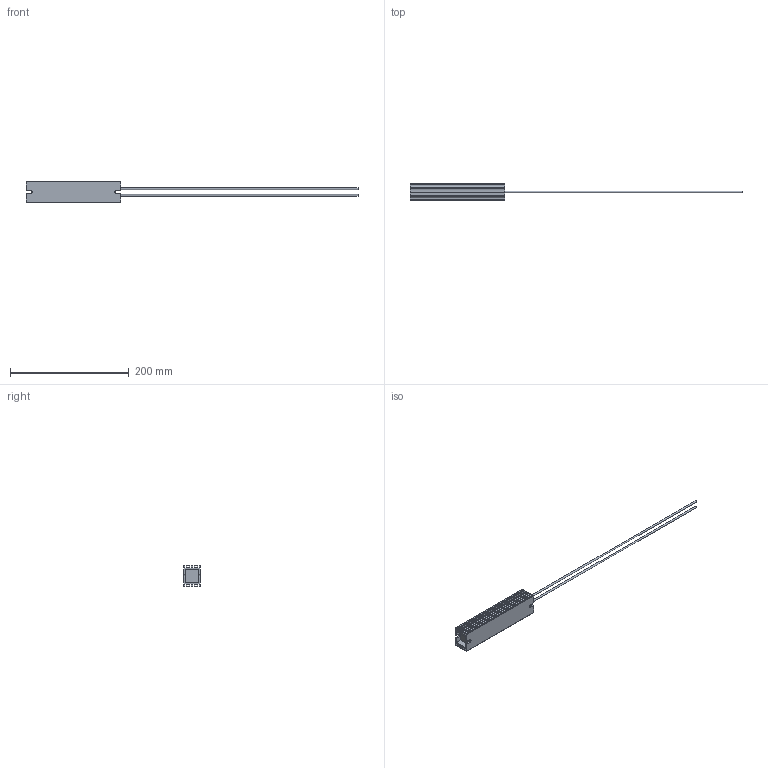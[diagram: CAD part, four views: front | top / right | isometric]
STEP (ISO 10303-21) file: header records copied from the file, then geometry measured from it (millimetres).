
FILE_DESCRIPTION(/* description */ (''),/* implementation_level */ '2;1');
FILE_NAME(/* name */ 'C:\_Vault\Dati\CATALOGO\RFZC\3D\RFZC160.stp',/* time_stamp */ '2014-03-27T17:39:38+01:00',/* author */ ('stefano'),/* organization */ (''),/* preprocessor_version */ 'ST-DEVELOPER v15.2',/* originating_system */ 'Autodesk Inventor 2014',/* authorisation */ '');
FILE_SCHEMA (('AUTOMOTIVE_DESIGN { 1 0 10303 214 3 1 1 }'));
Length unit declared in the file: millimetre
Products named in the file (1): RFZC160
Bounding box: 560 x 27 x 36 mm (x, y, z)
Volume: 131820.7 mm3; surface area: 44047.1 mm2
Topology: 1 solids, 1 shells, 94 faces, 262 edges, 172 vertices
Faces by surface type: plane 70, cylinder 24
Full cylindrical faces by diameter (mm): 3 x2
Entity records: 3124 total; most frequent: CARTESIAN_POINT 527, ORIENTED_EDGE 520, DIRECTION 506, EDGE_CURVE 260, LINE 204, VECTOR 204, VERTEX_POINT 172, AXIS2_PLACEMENT_3D 151
